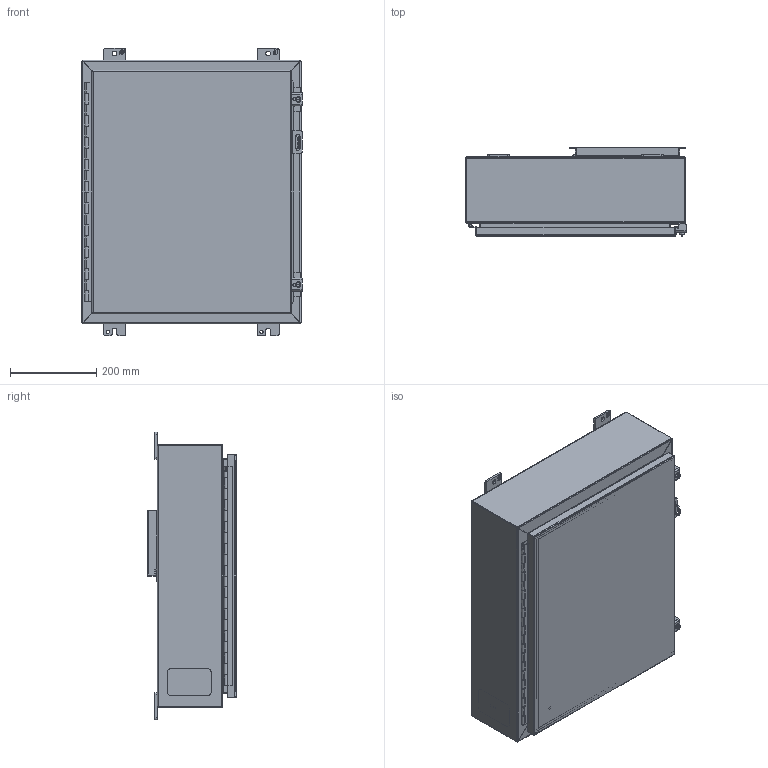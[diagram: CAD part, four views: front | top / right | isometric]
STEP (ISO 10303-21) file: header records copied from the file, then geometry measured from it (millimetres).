
FILE_DESCRIPTION(/* description */ ('Unknown'),/* implementation_level */ '2;1');
FILE_NAME(/* name */ '1418E6LP',/* time_stamp */ '2026-02-20T16:30:18-05:00',/* author */ ('Unknown'),/* organization */ ('Unknown'),/* preprocessor_version */ 'ST-DEVELOPER v18.104',/* originating_system */ 'Solid Edge',/* authorisation */ 'Unknown');
FILE_SCHEMA (('AUTOMOTIVE_DESIGN {1 0 10303 214 3 1 1}'));
Length unit declared in the file: millimetre
Products named in the file (30): 1418E6LP; FET07710; STD26094; STD21878; COM42780; HNG10620-20P; COM40153-1; COM71780-10; COM40153-2; COM70219_oa_0; HNG10620-20C; PNT11078; COM48430; AKT90223; SPR20265; SCC19011; WAF25035; COM42667; BUL10020; QLB30109; KIT90256; LAB30005; NTS165305; NTS16535; PKT99; KIT90518; WAF25059; NTS166105; HNG10620-20B
Assembly tree (40 placements, depth 3):
  1418E6LP
    FET07710  x4
    STD26094  x4
    STD21878
    COM42780  x2
    HNG10620-20P
    COM40153-1
    COM71780-10
      COM40153-2
      COM70219_oa_0
      HNG10620-20C
      COM71780-10
      STD21878
      PNT11078
    COM48430
    AKT90223  x2
      SPR20265
      SCC19011
      WAF25035
      COM42667
    BUL10020
    QLB30109
    KIT90256
      LAB30005
      NTS165305
      NTS16535
    PKT99
    KIT90518
      WAF25059
      NTS166105
      LAB30005
    HNG10620-20B
    PNT11078
Bounding box: 511.18 x 206.38 x 666.75 mm (x, y, z)
Volume: 2325798.9 mm3; surface area: 2482116.4 mm2
Topology: 34 solids, 35 shells, 1181 faces, 3003 edges, 1926 vertices
Faces by surface type: plane 786, cylinder 298, bspline 49, cone 26, torus 20, sphere 2
Full cylindrical faces by diameter (mm): 3.175 x1, 4.763 x1, 4.976 x1, 5.41 x2, 6.198 x2, 6.35 x3, 6.731 x2, 7.137 x2, 7.805 x1, 7.938 x4, 8.382 x4, 9.525 x4, 9.906 x2, 11.113 x4, 11.303 x1, 12.7 x2, 16.51 x4, 25.4 x1, 88.9 x1
Entity records: 29533 total; most frequent: CARTESIAN_POINT 8209, ORIENTED_EDGE 4256, DIRECTION 4023, EDGE_CURVE 2128, LINE 1449, VECTOR 1449, VERTEX_POINT 1369, AXIS2_PLACEMENT_3D 1287
